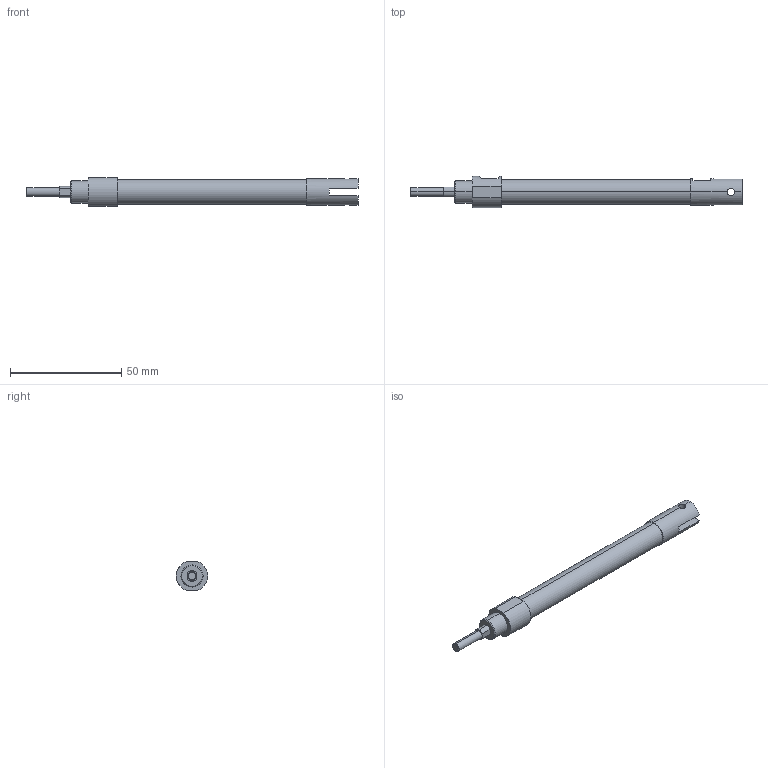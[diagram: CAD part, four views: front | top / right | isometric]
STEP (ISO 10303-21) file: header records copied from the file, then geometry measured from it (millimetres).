
FILE_DESCRIPTION (( 'STEP AP203' ), '1' );
FILE_NAME ('ZGU2-10-60-W.STEP', '2016-03-31T00:55:53', ( '' ), ( '' ), 'SwSTEP 2.0', 'SolidWorks 2014', '' );
FILE_SCHEMA (( 'CONFIG_CONTROL_DESIGN' ));
Length unit declared in the file: millimetre
Products named in the file (1): ZGU2-10-60-W
Bounding box: 149 x 14 x 13 mm (x, y, z)
Volume: 12675.6 mm3; surface area: 5696.4 mm2
Topology: 1 solids, 1 shells, 50 faces, 117 edges, 72 vertices
Faces by surface type: cylinder 21, plane 21, cone 8
Entity records: 1590 total; most frequent: CARTESIAN_POINT 350, DIRECTION 257, ORIENTED_EDGE 226, EDGE_CURVE 113, AXIS2_PLACEMENT_3D 99, VERTEX_POINT 72, EDGE_LOOP 61, LINE 59
